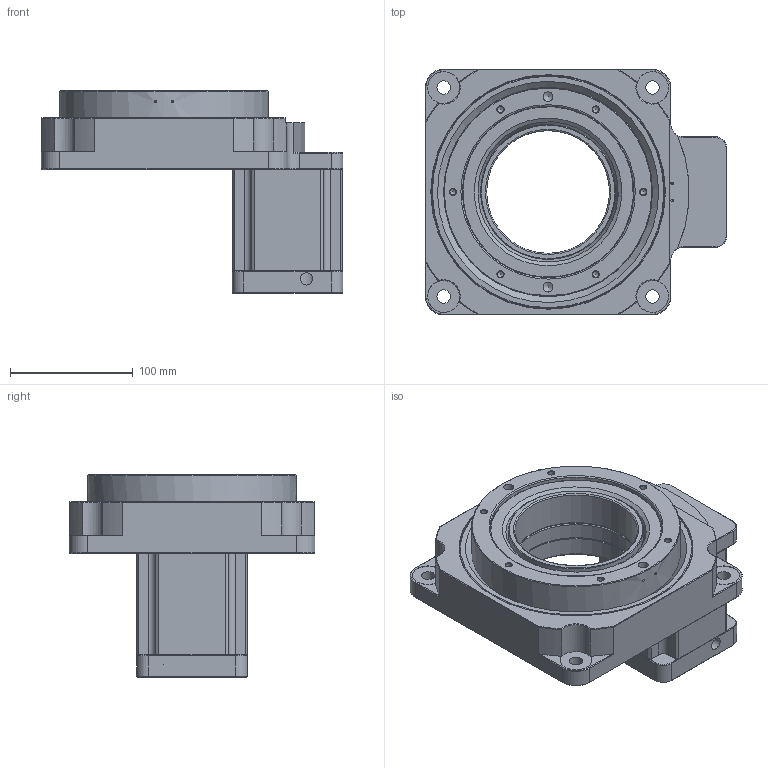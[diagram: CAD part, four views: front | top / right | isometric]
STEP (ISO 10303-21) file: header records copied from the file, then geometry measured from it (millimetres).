
FILE_DESCRIPTION((''),'2;1');
FILE_NAME('D:\유성\액추에이터\작성도면\액추에이터 3d\200\SHA200SV030~050 (2 STAGE-A TYPE).stp','2014-05-22T15:10:43',('nagyu'),(''),'Autodesk Inventor 2013','Autodesk Inventor 2013','');
FILE_SCHEMA(('AUTOMOTIVE_DESIGN { 1 0 10303 214 1 1 1 1 }'));
Length unit declared in the file: millimetre
Products named in the file (1): SHA200SV030~050 (2 STAGE-A TYPE)_Shrinkwrap_1
Bounding box: 245.48 x 200 x 164.5 mm (x, y, z)
Volume: 2097451.1 mm3; surface area: 368523.6 mm2
Topology: 2 solids, 28 shells, 1307 faces, 3449 edges, 2238 vertices
Faces by surface type: bspline 540, cylinder 349, plane 251, cone 135, torus 32
Full cylindrical faces by diameter (mm): 2.013 x4, 3.242 x1, 4.134 x16, 4.917 x10, 5 x9, 5.5 x16, 8 x3, 8.5 x9, 9.5 x16, 10 x1, 11 x4, 19 x1, 22 x1, 22.5 x1, 26 x4, 49 x1, 55 x1, 64 x1, 70 x1, 100 x3, 107 x2, 109.8 x1, 120.752 x2, 131.945 x2, 133 x1, 134 x1, 136 x1, 140 x3, 140.8 x1, 142.6 x3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
Entity records: 48740 total; most frequent: CARTESIAN_POINT 19807, ORIENTED_EDGE 6194, DIRECTION 4690, EDGE_CURVE 3097, AXIS2_PLACEMENT_3D 2164, VERTEX_POINT 2149, EDGE_LOOP 1651, CIRCLE 1388
